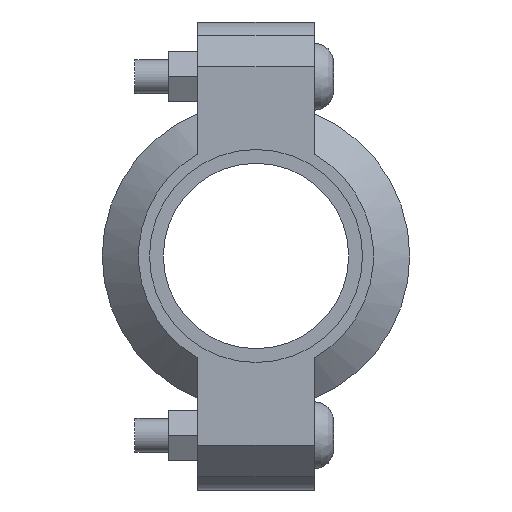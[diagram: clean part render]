
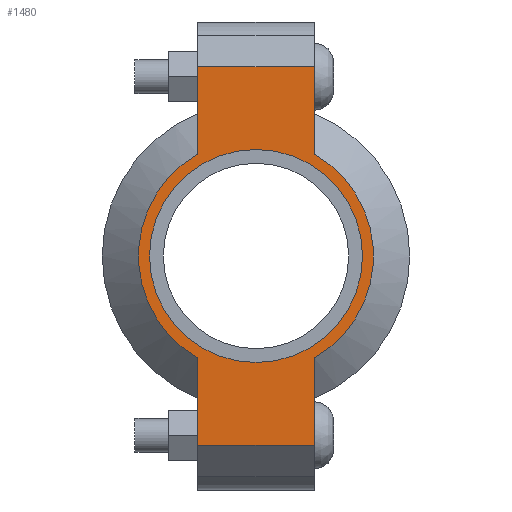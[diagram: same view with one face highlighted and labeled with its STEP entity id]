
A CAD part, left-side view. The second image highlights one B-rep face of the part: STEP entity #1480.
In plain terms, the highlighted planar face has unit normal (-1, 0, 0) as drawn and (0, 0, 1) by its records, which use the part's own axes.
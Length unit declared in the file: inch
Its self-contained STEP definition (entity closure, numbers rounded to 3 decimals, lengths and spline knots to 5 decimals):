
#160=LINE('',#2549,#251);
#168=LINE('',#2585,#259);
#175=LINE('',#2606,#266);
#184=LINE('',#2638,#275);
#185=LINE('',#2642,#276);
#186=LINE('',#2644,#277);
#251=VECTOR('',#2059,0.3937);
#259=VECTOR('',#2075,0.3937);
#266=VECTOR('',#2094,0.3937);
#275=VECTOR('',#2119,0.3937);
#276=VECTOR('',#2124,0.3937);
#277=VECTOR('',#2125,0.3937);
#329=FACE_BOUND('',#489,.T.);
#393=FACE_OUTER_BOUND('',#488,.T.);
#488=EDGE_LOOP('',(#1215,#1216,#1217,#1218,#1219,#1220,#1221,#1222));
#489=EDGE_LOOP('',(#1223));
#586=CIRCLE('',#1723,1.31);
#587=CIRCLE('',#1724,1.31);
#588=CIRCLE('',#1725,1.1875);
#691=VERTEX_POINT('',#2546);
#692=VERTEX_POINT('',#2548);
#703=VERTEX_POINT('',#2580);
#704=VERTEX_POINT('',#2584);
#711=VERTEX_POINT('',#2603);
#712=VERTEX_POINT('',#2605);
#722=VERTEX_POINT('',#2641);
#723=VERTEX_POINT('',#2643);
#724=VERTEX_POINT('',#2646);
#855=EDGE_CURVE('',#692,#691,#160,.T.);
#869=EDGE_CURVE('',#704,#703,#168,.T.);
#879=EDGE_CURVE('',#712,#711,#175,.T.);
#894=EDGE_CURVE('',#704,#691,#184,.T.);
#895=EDGE_CURVE('',#703,#712,#586,.T.);
#896=EDGE_CURVE('',#722,#711,#185,.T.);
#897=EDGE_CURVE('',#722,#723,#186,.T.);
#898=EDGE_CURVE('',#723,#692,#587,.T.);
#899=EDGE_CURVE('',#724,#724,#588,.T.);
#1215=ORIENTED_EDGE('',*,*,#894,.F.);
#1216=ORIENTED_EDGE('',*,*,#869,.T.);
#1217=ORIENTED_EDGE('',*,*,#895,.T.);
#1218=ORIENTED_EDGE('',*,*,#879,.T.);
#1219=ORIENTED_EDGE('',*,*,#896,.F.);
#1220=ORIENTED_EDGE('',*,*,#897,.T.);
#1221=ORIENTED_EDGE('',*,*,#898,.T.);
#1222=ORIENTED_EDGE('',*,*,#855,.T.);
#1223=ORIENTED_EDGE('',*,*,#899,.T.);
#1334=PLANE('',#1722);
#1480=ADVANCED_FACE('',(#393,#329),#1334,.T.);
#1722=AXIS2_PLACEMENT_3D('',#2639,#2120,#2121);
#1723=AXIS2_PLACEMENT_3D('',#2640,#2122,#2123);
#1724=AXIS2_PLACEMENT_3D('',#2645,#2126,#2127);
#1725=AXIS2_PLACEMENT_3D('',#2647,#2128,#2129);
#2059=DIRECTION('',(-1.,0.,0.));
#2075=DIRECTION('',(1.,0.,0.));
#2094=DIRECTION('',(1.,0.,0.));
#2119=DIRECTION('',(0.,1.,0.));
#2120=DIRECTION('center_axis',(0.,0.,1.));
#2121=DIRECTION('ref_axis',(1.,0.,0.));
#2122=DIRECTION('center_axis',(0.,0.,1.));
#2123=DIRECTION('ref_axis',(-1.,0.,0.));
#2124=DIRECTION('',(0.,-1.,0.));
#2125=DIRECTION('',(-1.,0.,0.));
#2126=DIRECTION('center_axis',(0.,0.,1.));
#2127=DIRECTION('ref_axis',(-1.,0.,0.));
#2128=DIRECTION('center_axis',(0.,0.,-1.));
#2129=DIRECTION('ref_axis',(-1.,0.,0.));
#2546=CARTESIAN_POINT('',(-2.11,0.65,0.94));
#2548=CARTESIAN_POINT('',(-1.13737,0.65,0.94));
#2549=CARTESIAN_POINT('',(-2.61,0.65,0.94));
#2580=CARTESIAN_POINT('',(-1.13737,-0.65,0.94));
#2584=CARTESIAN_POINT('',(-2.11,-0.65,0.94));
#2585=CARTESIAN_POINT('',(2.61,-0.65,0.94));
#2603=CARTESIAN_POINT('',(2.11,-0.65,0.94));
#2605=CARTESIAN_POINT('',(1.13737,-0.65,0.94));
#2606=CARTESIAN_POINT('',(2.61,-0.65,0.94));
#2638=CARTESIAN_POINT('',(-2.11,0.325,0.94));
#2639=CARTESIAN_POINT('Origin',(0.,0.,0.94));
#2640=CARTESIAN_POINT('Origin',(0.,0.,0.94));
#2641=CARTESIAN_POINT('',(2.11,0.65,0.94));
#2642=CARTESIAN_POINT('',(2.11,-0.325,0.94));
#2643=CARTESIAN_POINT('',(1.13737,0.65,0.94));
#2644=CARTESIAN_POINT('',(-2.61,0.65,0.94));
#2645=CARTESIAN_POINT('Origin',(0.,0.,0.94));
#2646=CARTESIAN_POINT('',(1.1875,0.,0.94));
#2647=CARTESIAN_POINT('Origin',(0.,0.,0.94));
